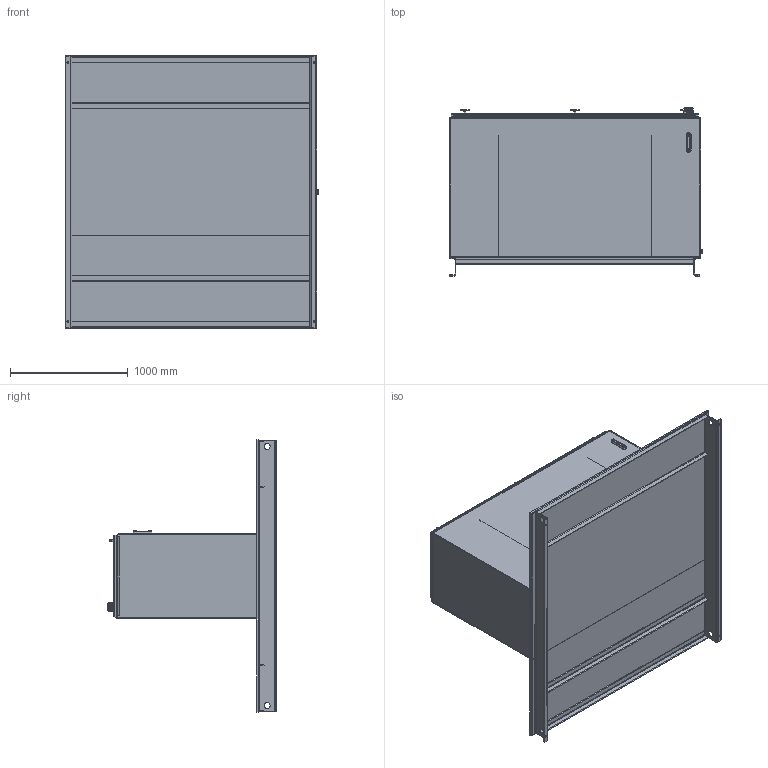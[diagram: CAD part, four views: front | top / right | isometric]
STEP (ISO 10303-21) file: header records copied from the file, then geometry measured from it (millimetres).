
FILE_DESCRIPTION (( 'STEP AP203' ), '1' );
FILE_NAME ('RTP400-HT.STEP', '2015-01-07T19:19:47', ( '' ), ( '' ), 'SwSTEP 2.0', 'SolidWorks 2014', '' );
FILE_SCHEMA (( 'CONFIG_CONTROL_DESIGN' ));
Products named in the file (1): RTP400-HT
Bounding box: 2152.65 x 1426.39 x 2311.4 mm (x, y, z)
Volume: 114474992.2 mm3; surface area: 34311916.3 mm2
Topology: 65 solids, 243 shells, 3182 faces, 6994 edges, 4251 vertices
Faces by surface type: plane 1330, cylinder 1158, torus 407, bspline 136, cone 96, sphere 55
Entity records: 95355 total; most frequent: CARTESIAN_POINT 24851, DIRECTION 15570, ORIENTED_EDGE 13868, EDGE_CURVE 6934, AXIS2_PLACEMENT_3D 6058, VERTEX_POINT 4233, VECTOR 3454, LINE 3454
